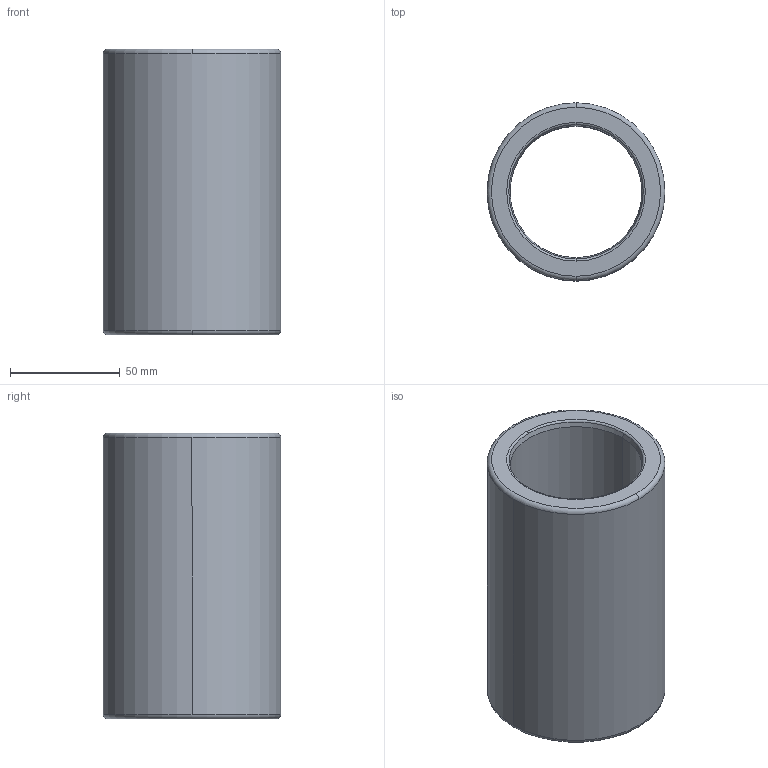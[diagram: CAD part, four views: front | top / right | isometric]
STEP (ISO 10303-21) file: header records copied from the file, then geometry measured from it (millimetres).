
FILE_DESCRIPTION((''),'2;1');
FILE_NAME('B30_048_130.stp','2009-01-12T10:53:53',(''),(''),'Mechanical Desktop 2009','Mechanical Desktop 2009',', , ');
FILE_SCHEMA(('CONFIG_CONTROL_DESIGN'));
Length unit declared in the file: millimetre
Products named in the file (2): Product; blmdl1
Assembly tree (1 placements, depth 2):
  Product
    blmdl1
Bounding box: 80.98 x 80.98 x 130 mm (x, y, z)
Volume: 301596.9 mm3; surface area: 61437.5 mm2
Topology: 1 solids, 1 shells, 18 faces, 48 edges, 32 vertices
Faces by surface type: torus 8, cylinder 4, cone 4, plane 2
Entity records: 705 total; most frequent: DIRECTION 128, CARTESIAN_POINT 100, ORIENTED_EDGE 96, AXIS2_PLACEMENT_3D 60, EDGE_CURVE 48, CIRCLE 40, VERTEX_POINT 32, EDGE_LOOP 20
